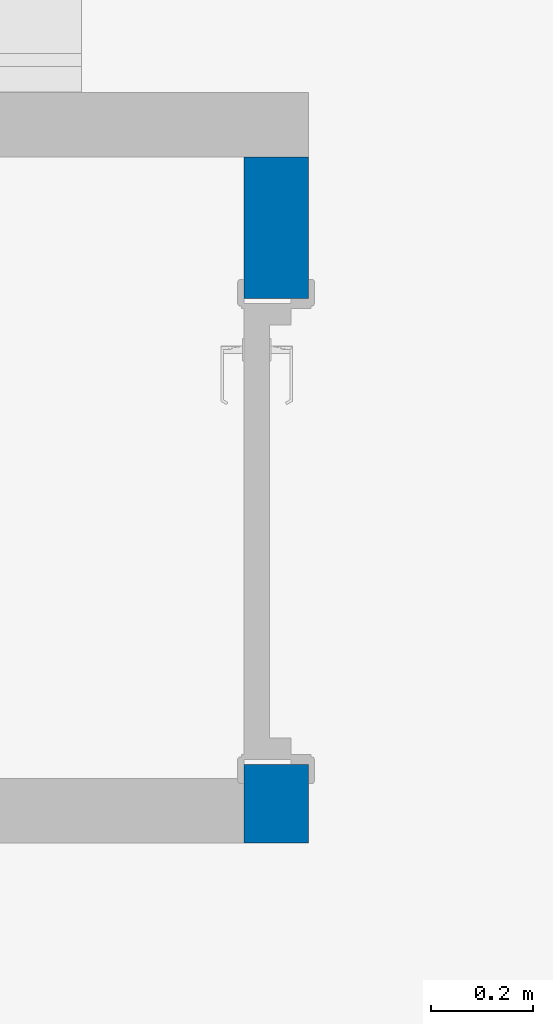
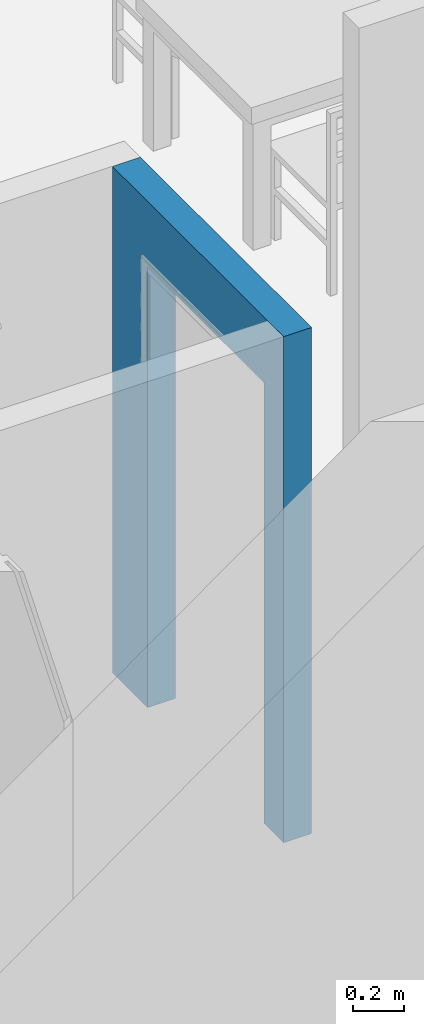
# One storey, part 7 of 65: 1 wall, 1 opening.
"""IFC2X3 building model written with IfcOpenShell, lengths in millimetres."""

from ifc_helpers import new_model, entity, si_unit, converted_unit, direction, frame, frame_2d, origin, place, context, subcontext, project, spatial, rectangle, extrude, material, layer, layer_set, layer_usage, type_object, element, save


model = new_model("IFC2X3")

# Units and contexts
model_context = context("Model", 3, precision=0.01, world=origin(), true_north=direction((0.0, 1.0)))
body_context = subcontext(model_context, "Body", "Model", "MODEL_VIEW")
ifc_project = project(units=[si_unit("LENGTHUNIT", "METRE", prefix="MILLI"), si_unit("AREAUNIT", "SQUARE_METRE"), si_unit("VOLUMEUNIT", "CUBIC_METRE"), converted_unit("PLANEANGLEUNIT", "DEGREE", entity("IfcPlaneAngleMeasure", 0.017453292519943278), si_unit("PLANEANGLEUNIT", "RADIAN"), dimensions=[0, 0, 0, 0, 0, 0, 0])], contexts=[model_context])

# Site, building, storey
site_placement = place(None, origin())
site = spatial("IfcSite", under=ifc_project, at=site_placement, Name="Default", CompositionType="ELEMENT")
building_placement = place(site_placement, origin())
building = spatial("IfcBuilding", under=site, at=building_placement, CompositionType="ELEMENT")
storey_placement = place(building_placement, origin())
storey = spatial("IfcBuildingStorey", under=building, at=storey_placement, Name="Et. 1", CompositionType="ELEMENT", Elevation=0.0)

# Wall, opening
ifc_material_1 = material(Name="Vegg - Gips - Innvendig - Hvit")
ifc_layer_1 = layer(ifc_material_1, 13.000000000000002)
ifc_material_2 = material(Name="Vegg - Stender - Stål - Isolert")
ifc_layer_2 = layer(ifc_material_2, 100.0)
ifc_layer_3 = layer(ifc_material_1, 13.000000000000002)
ifc_layer_set = layer_set([ifc_layer_1, ifc_layer_2, ifc_layer_3], Name="Basic Wall:24-GSIG-13_100_13")
ifc_layer_usage = layer_usage(ifc_layer_set, "AXIS2", "NEGATIVE", 63.00000000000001)
wall_type = type_object("IfcWallType", Name="Basic Wall:24-GSIG-13_100_13", PredefinedType="STANDARD", material=ifc_layer_set)
wall_placement = place(storey_placement, frame((12628.009586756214, 14093.05871915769, 0.0), z_axis=(0.0, 0.0, 1.0), x_axis=(0.0, -1.0, 0.0)))
wall = element("IfcWallStandardCase", 1, at=wall_placement, inside=storey, type_object=wall_type, material=ifc_layer_usage, Name="Basic Wall:24-GSIG-13_100_13", context=body_context, shape_type="SweptSolid", body=[
    extrude(rectangle(XDim=1338.8777614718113, YDim=126.00000000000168, at=frame_2d((669.4388807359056, 2.6645352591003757e-13), x_axis=(-1.0, 0.0))), origin(), (0.0, 0.0, 1.0), 2413.0),
])
opening_placement = place(wall_placement, frame((1185.8777614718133, 63.0, 0.0)))
element("IfcOpeningElement", 2, at=opening_placement, cuts=wall, Name="ID Hel:9x21M:1", ObjectType="Opening", context=body_context, shape_type="SweptSolid", body=[
    extrude(rectangle(XDim=910.0000000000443, YDim=2100.0000000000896, at=frame_2d((1050.0000000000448, 455.00000000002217), x_axis=(0.0, -1.0))), frame((0.0, 0.0, 0.0), z_axis=(0.0, -1.0, 0.0), x_axis=(0.0, 0.0, 1.0)), (0.0, 0.0, 1.0), 126.00000000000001),
])

save(model, "model.ifc")
